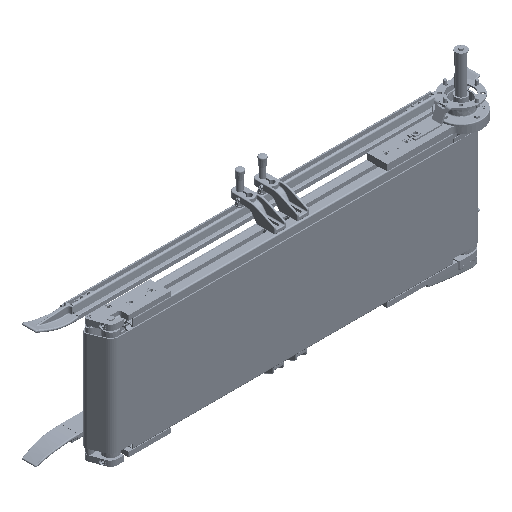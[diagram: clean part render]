
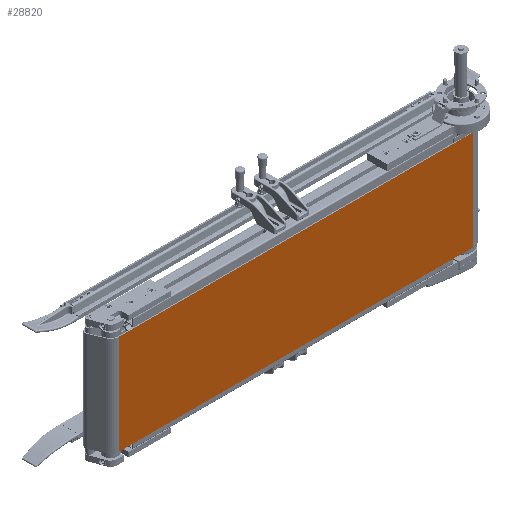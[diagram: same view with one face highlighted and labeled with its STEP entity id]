
A CAD part, isometric view. The second image highlights one B-rep face of the part: STEP entity #28820.
In plain terms, the highlighted planar face has unit normal (0, -1, 0).
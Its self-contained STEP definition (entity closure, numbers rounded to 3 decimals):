
#1144 = CARTESIAN_POINT ( 'NONE',  ( 392., -27., 109.5 ) ) ;
#2504 = CARTESIAN_POINT ( 'NONE',  ( -388., -27., 109.5 ) ) ;
#8295 = CARTESIAN_POINT ( 'NONE',  ( -388., -27., -109.5 ) ) ;
#14050 = DIRECTION ( 'NONE',  ( -1., 0., 0. ) ) ;
#16861 = CARTESIAN_POINT ( 'NONE',  ( -388., -27., -109.5 ) ) ;
#23456 = VERTEX_POINT ( 'NONE', #16861 ) ;
#28798 = DIRECTION ( 'NONE',  ( 1., 0., 0. ) ) ;
#28820 = ADVANCED_FACE ( 'NONE', ( #65521 ), #124320, .F. ) ;
#30592 = LINE ( 'NONE', #88074, #60739 ) ;
#32961 = CARTESIAN_POINT ( 'NONE',  ( 392., -27., 109.5 ) ) ;
#33576 = LINE ( 'NONE', #2504, #61444 ) ;
#45746 = DIRECTION ( 'NONE',  ( 0., 1., 0. ) ) ;
#46020 = ORIENTED_EDGE ( 'NONE', *, *, #82199, .F. ) ;
#47954 = LINE ( 'NONE', #8295, #109683 ) ;
#51368 = LINE ( 'NONE', #1144, #111832 ) ;
#52737 = DIRECTION ( 'NONE',  ( 0., 0., -1. ) ) ;
#54200 = EDGE_CURVE ( 'NONE', #23456, #58870, #47954, .T. ) ;
#58870 = VERTEX_POINT ( 'NONE', #91116 ) ;
#59815 = AXIS2_PLACEMENT_3D ( 'NONE', #64884, #45746, #14050 ) ;
#60739 = VECTOR ( 'NONE', #100615, 1000. ) ;
#61444 = VECTOR ( 'NONE', #52737, 1000. ) ;
#64884 = CARTESIAN_POINT ( 'NONE',  ( -388., -27., 109.5 ) ) ;
#65521 = FACE_OUTER_BOUND ( 'NONE', #77191, .T. ) ;
#68542 = CARTESIAN_POINT ( 'NONE',  ( -388., -27., 109.5 ) ) ;
#77191 = EDGE_LOOP ( 'NONE', ( #81686, #46020, #130143, #81968 ) ) ;
#81686 = ORIENTED_EDGE ( 'NONE', *, *, #54200, .T. ) ;
#81739 = DIRECTION ( 'NONE',  ( 0., 0., -1. ) ) ;
#81968 = ORIENTED_EDGE ( 'NONE', *, *, #103267, .T. ) ;
#82199 = EDGE_CURVE ( 'NONE', #111733, #58870, #51368, .T. ) ;
#88074 = CARTESIAN_POINT ( 'NONE',  ( -388., -27., 109.5 ) ) ;
#91116 = CARTESIAN_POINT ( 'NONE',  ( 392., -27., -109.5 ) ) ;
#99109 = EDGE_CURVE ( 'NONE', #126731, #111733, #30592, .T. ) ;
#100615 = DIRECTION ( 'NONE',  ( 1., 0., 0. ) ) ;
#103267 = EDGE_CURVE ( 'NONE', #126731, #23456, #33576, .T. ) ;
#109683 = VECTOR ( 'NONE', #28798, 1000. ) ;
#111733 = VERTEX_POINT ( 'NONE', #32961 ) ;
#111832 = VECTOR ( 'NONE', #81739, 1000. ) ;
#124320 = PLANE ( 'NONE',  #59815 ) ;
#126731 = VERTEX_POINT ( 'NONE', #68542 ) ;
#130143 = ORIENTED_EDGE ( 'NONE', *, *, #99109, .F. ) ;
